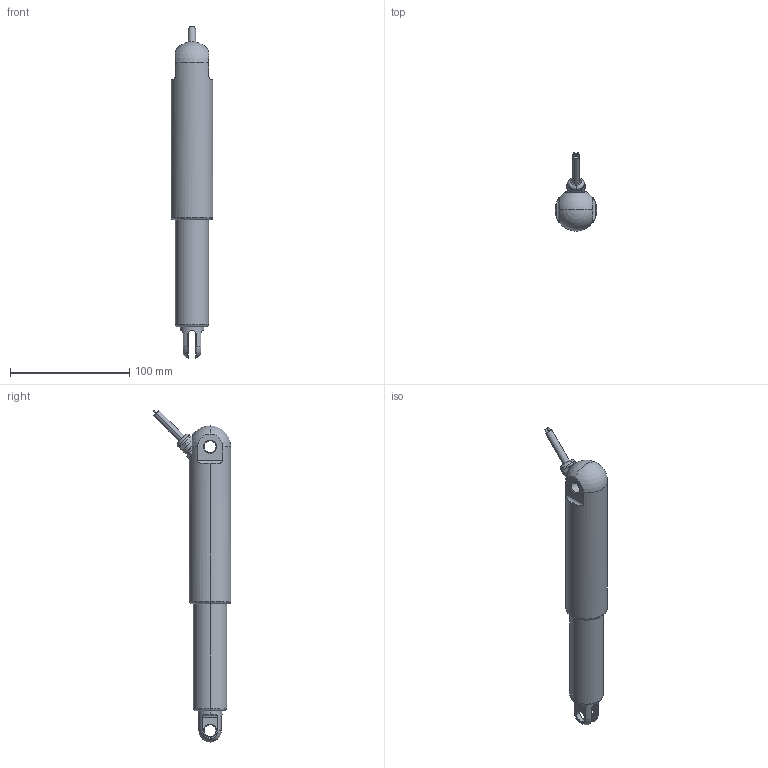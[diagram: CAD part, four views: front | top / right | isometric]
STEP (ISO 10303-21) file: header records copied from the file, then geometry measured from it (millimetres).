
FILE_DESCRIPTION((''),'2;1');
FILE_NAME('ST35-50MM-188','2016-12-15T',('Aklek'),(''),'PRO/ENGINEER BY PARAMETRIC TECHNOLOGY CORPORATION, 2010100','PRO/ENGINEER BY PARAMETRIC TECHNOLOGY CORPORATION, 2010100','');
FILE_SCHEMA(('CONFIG_CONTROL_DESIGN'));
Length unit declared in the file: millimetre
Products named in the file (1): ST35-50MM-188
Bounding box: 35 x 65.28 x 278.2 mm (x, y, z)
Volume: 193738.5 mm3; surface area: 29054.7 mm2
Topology: 1 solids, 1 shells, 111 faces, 273 edges, 171 vertices
Faces by surface type: cylinder 47, plane 35, torus 10, cone 8, bspline 7, sphere 4
Entity records: 3730 total; most frequent: CARTESIAN_POINT 1027, DIRECTION 584, ORIENTED_EDGE 542, EDGE_CURVE 271, AXIS2_PLACEMENT_3D 236, VERTEX_POINT 171, CIRCLE 132, EDGE_LOOP 126
